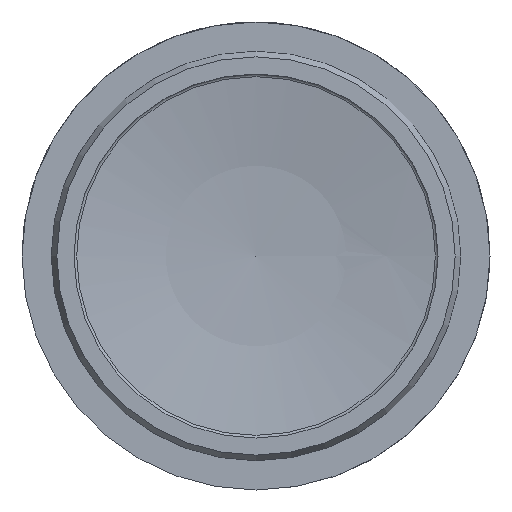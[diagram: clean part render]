
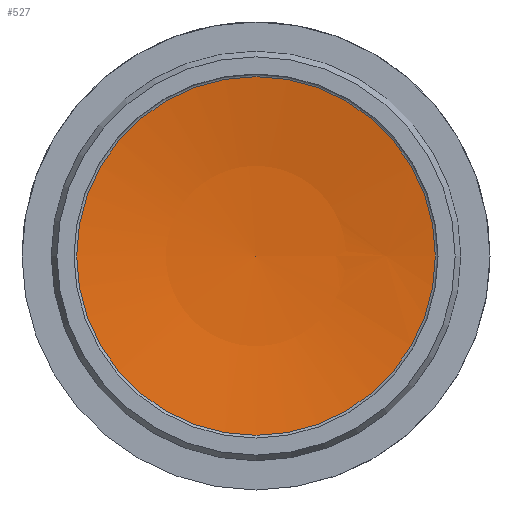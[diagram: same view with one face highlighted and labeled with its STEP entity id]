
A CAD part, front view. The second image highlights one B-rep face of the part: STEP entity #527.
In plain terms, the highlighted spherical face has radius 153.386 mm.
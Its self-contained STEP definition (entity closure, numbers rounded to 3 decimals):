
#345=FACE_OUTER_BOUND('',#689,.T.);
#527=ADVANCED_FACE('',(#345),#641,.F.);
#641=SPHERICAL_SURFACE('',#2259,153.386);
#689=EDGE_LOOP('',(#1100));
#1100=ORIENTED_EDGE('',*,*,#1924,.T.);
#1715=VERTEX_POINT('',#3559);
#1924=EDGE_CURVE('',#1715,#1715,#2188,.T.);
#2188=CIRCLE('',#2258,27.59);
#2258=AXIS2_PLACEMENT_3D('',#3558,#2460,#2461);
#2259=AXIS2_PLACEMENT_3D('',#3560,#2462,#2463);
#2460=DIRECTION('',(0.,-1.,0.));
#2461=DIRECTION('',(0.,0.,-1.));
#2462=DIRECTION('',(0.,-1.,0.));
#2463=DIRECTION('',(1.,0.,0.));
#3558=CARTESIAN_POINT('',(0.,13.998,0.));
#3559=CARTESIAN_POINT('',(0.,13.998,-27.59));
#3560=CARTESIAN_POINT('',(0.,-136.886,0.));
